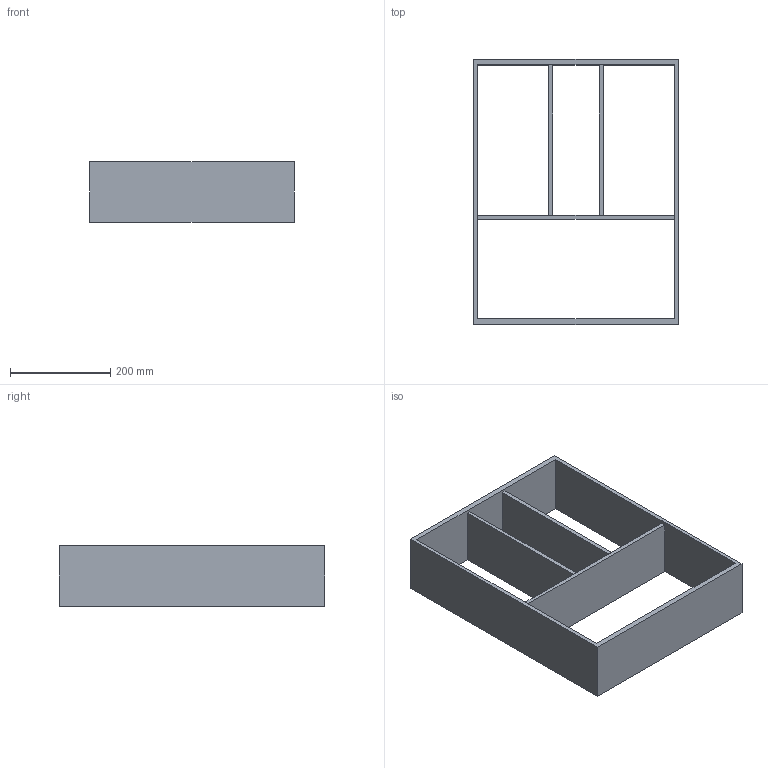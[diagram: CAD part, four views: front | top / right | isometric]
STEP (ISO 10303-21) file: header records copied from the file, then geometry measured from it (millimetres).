
FILE_DESCRIPTION (( 'STEP AP214' ), '1' );
FILE_NAME ('Vario Multi H120 NL550_B500_16 mm_Alu-Buche.step', '2010-10-08T09:47:38', ( 'grass' ), ( '' ), 'SwSTEP 2.0', 'SolidWorks 2010', '' );
FILE_SCHEMA (( 'AUTOMOTIVE_DESIGN' ));
Length unit declared in the file: millimetre
Products named in the file (1): Vario Multi H120 NL550_B500_16 mm_Alu-Buche
Bounding box: 408 x 529 x 120 mm (x, y, z)
Volume: 2954676 mm3; surface area: 711240 mm2
Topology: 1 solids, 1 shells, 22 faces, 60 edges, 40 vertices
Faces by surface type: plane 22
Entity records: 734 total; most frequent: CARTESIAN_POINT 123, ORIENTED_EDGE 120, DIRECTION 106, EDGE_CURVE 60, LINE 60, VECTOR 60, VERTEX_POINT 40, EDGE_LOOP 30
